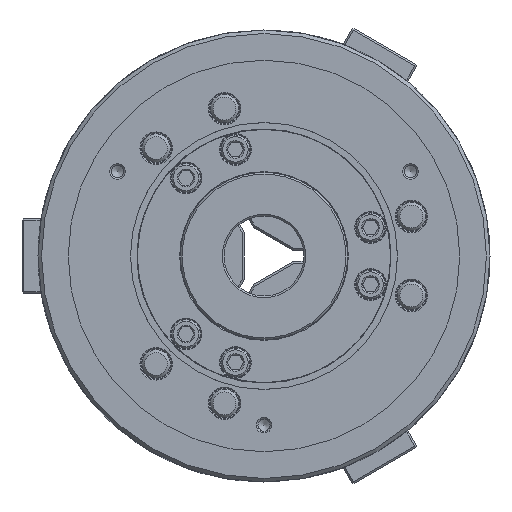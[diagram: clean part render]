
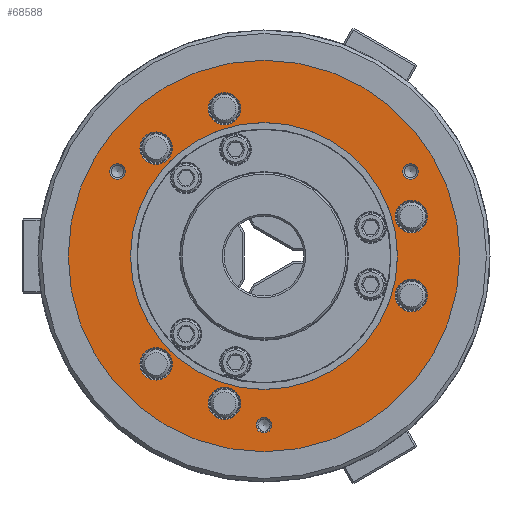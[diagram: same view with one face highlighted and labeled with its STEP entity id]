
A CAD part, left-side view. The second image highlights one B-rep face of the part: STEP entity #68588.
In plain terms, the highlighted planar face has unit normal (-1, 0, 0).
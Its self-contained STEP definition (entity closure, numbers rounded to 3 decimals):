
#31 = CARTESIAN_POINT ( 'NONE',  ( -95., 82.272, 51.9 ) ) ;
#146 = CARTESIAN_POINT ( 'NONE',  ( -95., 82.272, 47.5 ) ) ;
#324 = CIRCLE ( 'NONE', #59281, 9.1 ) ;
#730 = CARTESIAN_POINT ( 'NONE',  ( -95., 22.187, 73.704 ) ) ;
#1245 = CIRCLE ( 'NONE', #61229, 110. ) ;
#1865 = DIRECTION ( 'NONE',  ( 0., 0., -1. ) ) ;
#2195 = FACE_BOUND ( 'NONE', #54351, .T. ) ;
#2545 = CARTESIAN_POINT ( 'NONE',  ( -95., 0., 0. ) ) ;
#3250 = DIRECTION ( 'NONE',  ( 0., 0., 1. ) ) ;
#3820 = EDGE_CURVE ( 'NONE', #14377, #14377, #324, .T. ) ;
#4214 = EDGE_CURVE ( 'NONE', #9053, #9053, #10625, .T. ) ;
#4782 = EDGE_CURVE ( 'NONE', #54361, #54361, #53250, .T. ) ;
#5136 = DIRECTION ( 'NONE',  ( 0., 0., -1. ) ) ;
#7175 = FACE_OUTER_BOUND ( 'NONE', #37833, .T. ) ;
#8049 = CIRCLE ( 'NONE', #61254, 9.1 ) ;
#8099 = AXIS2_PLACEMENT_3D ( 'NONE', #61975, #56287, #54639 ) ;
#8635 = VERTEX_POINT ( 'NONE', #40857 ) ;
#9053 = VERTEX_POINT ( 'NONE', #68955 ) ;
#9283 = CARTESIAN_POINT ( 'NONE',  ( -95., 22.187, 82.804 ) ) ;
#9462 = AXIS2_PLACEMENT_3D ( 'NONE', #54010, #15425, #5136 ) ;
#9939 = DIRECTION ( 'NONE',  ( 0., 0., 1. ) ) ;
#10417 = ORIENTED_EDGE ( 'NONE', *, *, #4782, .F. ) ;
#10625 = CIRCLE ( 'NONE', #37618, 9.1 ) ;
#10761 = DIRECTION ( 'NONE',  ( 0., 0., 1. ) ) ;
#11076 = CARTESIAN_POINT ( 'NONE',  ( -95., 22.187, -82.804 ) ) ;
#11450 = DIRECTION ( 'NONE',  ( -1., 0., 0. ) ) ;
#11484 = CIRCLE ( 'NONE', #8099, 4.4 ) ;
#11854 = VERTEX_POINT ( 'NONE', #32408 ) ;
#13488 = CARTESIAN_POINT ( 'NONE',  ( -95., -82.804, 22.187 ) ) ;
#14377 = VERTEX_POINT ( 'NONE', #62584 ) ;
#15425 = DIRECTION ( 'NONE',  ( 1., 0., 0. ) ) ;
#16281 = AXIS2_PLACEMENT_3D ( 'NONE', #146, #47971, #10761 ) ;
#16369 = EDGE_LOOP ( 'NONE', ( #23883 ) ) ;
#16808 = CARTESIAN_POINT ( 'NONE',  ( -95., 0., 75. ) ) ;
#16888 = EDGE_LOOP ( 'NONE', ( #20807 ) ) ;
#18085 = ORIENTED_EDGE ( 'NONE', *, *, #4214, .T. ) ;
#18418 = EDGE_CURVE ( 'NONE', #11854, #11854, #1245, .T. ) ;
#18486 = CARTESIAN_POINT ( 'NONE',  ( -95., 0., 0. ) ) ;
#18512 = CIRCLE ( 'NONE', #21905, 9.1 ) ;
#20480 = CIRCLE ( 'NONE', #36330, 4.4 ) ;
#20807 = ORIENTED_EDGE ( 'NONE', *, *, #25132, .F. ) ;
#21905 = AXIS2_PLACEMENT_3D ( 'NONE', #13488, #62772, #25895 ) ;
#23136 = FACE_BOUND ( 'NONE', #16888, .T. ) ;
#23156 = EDGE_CURVE ( 'NONE', #23535, #23535, #20480, .T. ) ;
#23535 = VERTEX_POINT ( 'NONE', #66742 ) ;
#23624 = ORIENTED_EDGE ( 'NONE', *, *, #40167, .T. ) ;
#23641 = DIRECTION ( 'NONE',  ( 0., 0., -1. ) ) ;
#23820 = FACE_BOUND ( 'NONE', #24217, .T. ) ;
#23883 = ORIENTED_EDGE ( 'NONE', *, *, #24323, .T. ) ;
#24217 = EDGE_LOOP ( 'NONE', ( #69449 ) ) ;
#24323 = EDGE_CURVE ( 'NONE', #63215, #63215, #8049, .T. ) ;
#25132 = EDGE_CURVE ( 'NONE', #8635, #8635, #11484, .T. ) ;
#25895 = DIRECTION ( 'NONE',  ( 0., 0., -1. ) ) ;
#27324 = DIRECTION ( 'NONE',  ( 1., 0., 0. ) ) ;
#28422 = FACE_BOUND ( 'NONE', #60927, .T. ) ;
#29453 = DIRECTION ( 'NONE',  ( -1., 0., 0. ) ) ;
#29459 = FACE_BOUND ( 'NONE', #34737, .T. ) ;
#31426 = ORIENTED_EDGE ( 'NONE', *, *, #60034, .T. ) ;
#32408 = CARTESIAN_POINT ( 'NONE',  ( -95., 0., 110. ) ) ;
#32708 = DIRECTION ( 'NONE',  ( 0., 0., 1. ) ) ;
#32871 = ORIENTED_EDGE ( 'NONE', *, *, #23156, .F. ) ;
#34679 = VERTEX_POINT ( 'NONE', #730 ) ;
#34737 = EDGE_LOOP ( 'NONE', ( #49997 ) ) ;
#35649 = ORIENTED_EDGE ( 'NONE', *, *, #37167, .F. ) ;
#36232 = AXIS2_PLACEMENT_3D ( 'NONE', #9283, #27324, #66272 ) ;
#36330 = AXIS2_PLACEMENT_3D ( 'NONE', #69974, #11450, #32708 ) ;
#37167 = EDGE_CURVE ( 'NONE', #69139, #69139, #43417, .T. ) ;
#37618 = AXIS2_PLACEMENT_3D ( 'NONE', #66164, #45932, #23641 ) ;
#37833 = EDGE_LOOP ( 'NONE', ( #61004 ) ) ;
#40082 = DIRECTION ( 'NONE',  ( -1., 0., 0. ) ) ;
#40167 = EDGE_CURVE ( 'NONE', #34679, #34679, #66760, .T. ) ;
#40857 = CARTESIAN_POINT ( 'NONE',  ( -95., 0., -90.6 ) ) ;
#41119 = CIRCLE ( 'NONE', #9462, 9.1 ) ;
#43417 = CIRCLE ( 'NONE', #16281, 4.4 ) ;
#44704 = FACE_BOUND ( 'NONE', #48115, .T. ) ;
#45403 = FACE_BOUND ( 'NONE', #16369, .T. ) ;
#45932 = DIRECTION ( 'NONE',  ( 1., 0., 0. ) ) ;
#45998 = CARTESIAN_POINT ( 'NONE',  ( -95., -82.804, 13.087 ) ) ;
#47234 = CARTESIAN_POINT ( 'NONE',  ( -95., 60.617, -69.717 ) ) ;
#47793 = EDGE_LOOP ( 'NONE', ( #31426 ) ) ;
#47971 = DIRECTION ( 'NONE',  ( -1., 0., 0. ) ) ;
#48115 = EDGE_LOOP ( 'NONE', ( #18085 ) ) ;
#49997 = ORIENTED_EDGE ( 'NONE', *, *, #59788, .T. ) ;
#50394 = DIRECTION ( 'NONE',  ( 1., 0., 0. ) ) ;
#50617 = VERTEX_POINT ( 'NONE', #55936 ) ;
#51506 = EDGE_LOOP ( 'NONE', ( #10417 ) ) ;
#52841 = DIRECTION ( 'NONE',  ( 0., 0., -1. ) ) ;
#53250 = CIRCLE ( 'NONE', #56625, 75. ) ;
#53259 = DIRECTION ( 'NONE',  ( 1., 0., 0. ) ) ;
#54010 = CARTESIAN_POINT ( 'NONE',  ( -95., 60.617, 60.617 ) ) ;
#54300 = DIRECTION ( 'NONE',  ( 0., 0., -1. ) ) ;
#54351 = EDGE_LOOP ( 'NONE', ( #32871 ) ) ;
#54361 = VERTEX_POINT ( 'NONE', #16808 ) ;
#54639 = DIRECTION ( 'NONE',  ( 0., 0., 1. ) ) ;
#55696 = FACE_BOUND ( 'NONE', #62320, .T. ) ;
#55936 = CARTESIAN_POINT ( 'NONE',  ( -95., 60.617, 51.517 ) ) ;
#56287 = DIRECTION ( 'NONE',  ( -1., 0., 0. ) ) ;
#56625 = AXIS2_PLACEMENT_3D ( 'NONE', #18486, #40082, #9939 ) ;
#56988 = VERTEX_POINT ( 'NONE', #45998 ) ;
#58841 = CARTESIAN_POINT ( 'NONE',  ( -95., 60.617, -60.617 ) ) ;
#59281 = AXIS2_PLACEMENT_3D ( 'NONE', #11076, #53259, #54300 ) ;
#59788 = EDGE_CURVE ( 'NONE', #50617, #50617, #41119, .T. ) ;
#60034 = EDGE_CURVE ( 'NONE', #56988, #56988, #18512, .T. ) ;
#60927 = EDGE_LOOP ( 'NONE', ( #23624 ) ) ;
#61004 = ORIENTED_EDGE ( 'NONE', *, *, #18418, .T. ) ;
#61021 = CARTESIAN_POINT ( 'NONE',  ( -95., 110., 0. ) ) ;
#61229 = AXIS2_PLACEMENT_3D ( 'NONE', #2545, #29453, #3250 ) ;
#61254 = AXIS2_PLACEMENT_3D ( 'NONE', #58841, #63472, #52841 ) ;
#61733 = FACE_BOUND ( 'NONE', #51506, .T. ) ;
#61975 = CARTESIAN_POINT ( 'NONE',  ( -95., 0., -95. ) ) ;
#62320 = EDGE_LOOP ( 'NONE', ( #35649 ) ) ;
#62584 = CARTESIAN_POINT ( 'NONE',  ( -95., 22.187, -91.904 ) ) ;
#62772 = DIRECTION ( 'NONE',  ( 1., 0., 0. ) ) ;
#63215 = VERTEX_POINT ( 'NONE', #47234 ) ;
#63472 = DIRECTION ( 'NONE',  ( 1., 0., 0. ) ) ;
#63707 = AXIS2_PLACEMENT_3D ( 'NONE', #61021, #50394, #1865 ) ;
#66164 = CARTESIAN_POINT ( 'NONE',  ( -95., -82.804, -22.187 ) ) ;
#66272 = DIRECTION ( 'NONE',  ( 0., 0., -1. ) ) ;
#66341 = PLANE ( 'NONE',  #63707 ) ;
#66742 = CARTESIAN_POINT ( 'NONE',  ( -95., -82.272, 51.9 ) ) ;
#66760 = CIRCLE ( 'NONE', #36232, 9.1 ) ;
#67413 = FACE_BOUND ( 'NONE', #47793, .T. ) ;
#68588 = ADVANCED_FACE ( 'NONE', ( #55696, #2195, #23820, #45403, #29459, #28422, #23136, #67413, #44704, #61733, #7175 ), #66341, .F. ) ;
#68955 = CARTESIAN_POINT ( 'NONE',  ( -95., -82.804, -31.287 ) ) ;
#69139 = VERTEX_POINT ( 'NONE', #31 ) ;
#69449 = ORIENTED_EDGE ( 'NONE', *, *, #3820, .T. ) ;
#69974 = CARTESIAN_POINT ( 'NONE',  ( -95., -82.272, 47.5 ) ) ;
